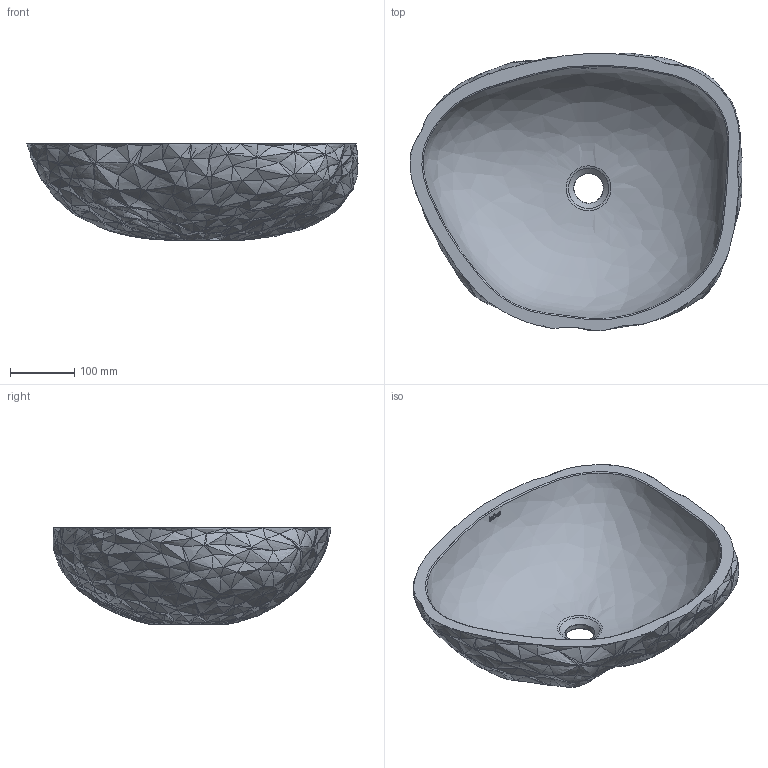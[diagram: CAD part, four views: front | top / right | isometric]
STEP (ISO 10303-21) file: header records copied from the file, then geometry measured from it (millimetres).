
FILE_DESCRIPTION(/* description */ (''),/* implementation_level */ '2;1');
FILE_NAME(/* name */ '00393_RIO',/* time_stamp */ '2022-12-20T16:39:48+01:00',/* author */ (''),/* organization */ (''),/* preprocessor_version */ 'ST-DEVELOPER v16.5',/* originating_system */ '',/* authorisation */ '');
FILE_SCHEMA (('CONFIG_CONTROL_DESIGN'));
Length unit declared in the file: millimetre
Products named in the file (1): Document
Bounding box: 518.08 x 433.8 x 150 mm (x, y, z)
Volume: 5904022 mm3; surface area: 555550.9 mm2
Topology: 7 solids, 7 shells, 1236 faces, 2029 edges, 773 vertices
Faces by surface type: bspline 1232, plane 3, cylinder 1
Full cylindrical faces by diameter (mm): 46 x1
Entity records: 164242 total; most frequent: CARTESIAN_POINT 150435, ORIENTED_EDGE 3990, EDGE_CURVE 1995, B_SPLINE_CURVE_WITH_KNOTS 1982, EDGE_LOOP 1244, ADVANCED_FACE 1236, FACE_OUTER_BOUND 1236, B_SPLINE_SURFACE_WITH_KNOTS 1227
